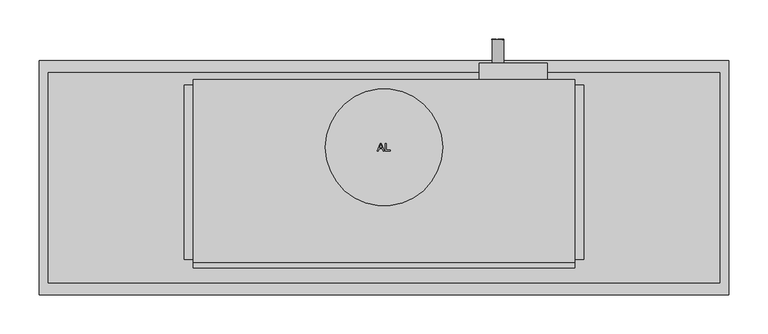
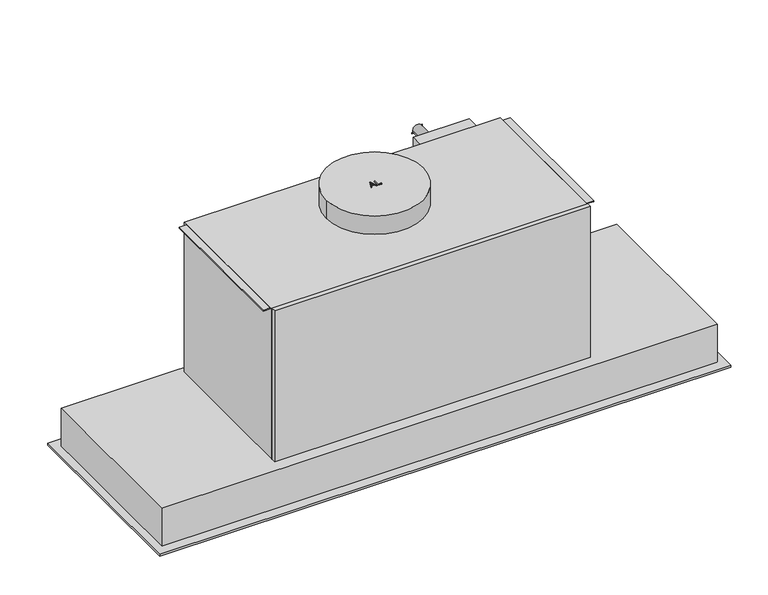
"""IFC4 building model written with IfcOpenShell, lengths in millimetres: proxy geometry, 10876810_USA_DA2698_EDST : 28269855_USA_10876810_DA2698_EDST."""

from ifc_helpers import new_model, si_unit, point, frame, frame_2d, origin, place, context, project, spatial, polyline, circle_curve, trimmed, segment, composite_curve, outline, extrude, faceted_brep, source, transform, mapped, element, save


def specialty_equipment_618ad6a4(model_context):
    return source(origin(), model_context, "Body", "SolidModel", [
        extrude(outline(polyline([(-244.5, -266.0), (-244.5, -259.0), (244.5, -259.0), (244.5, -266.0), (-244.5, -266.0)])), frame((0.0, 0.0, 62.0), z_axis=(0.0, 0.0, 1.0), x_axis=(1.0, 0.0, 0.0)), (0.0, 0.0, 1.0), 247.0),
        extrude(outline(polyline([(297.0487014, 146.1488124), (295.7933175, 146.1488124), (295.7933175, 152.1103397), (292.8179635, 152.1103397), (292.8179635, 146.4736401), (291.549202, 146.4736401), (291.549202, 152.1103397), (288.2562302, 152.1103397), (288.2562302, 146.0), (287.0008068, 146.0), (287.0008068, 153.3751415), (297.0487014, 153.3751415), (297.0487014, 146.1488124)])), frame((0.0, 27.0, 0.0), z_axis=(0.0, 1.0, 0.0), x_axis=(0.0, 0.0, 1.0)), (0.0, 0.0, 1.0), 1.0),
        extrude(outline(polyline([(287.0010623, 144.1174475), (297.0447152, 144.1174475), (297.0447152, 142.8578836), (288.2586555, 142.8578836), (288.2586555, 137.835249), (287.0010623, 137.835249), (287.0010623, 144.1174475)])), frame((0.0, 27.0, 0.0), z_axis=(0.0, 1.0, 0.0), x_axis=(0.0, 0.0, 1.0)), (0.0, 0.0, 1.0), 1.0),
        extrude(outline(composite_curve([segment(trimmed(circle_curve(frame_2d((292.0, 146.0)), 7.5), [point((292.0, 153.5))], [point((292.0, 138.5))], False, "CARTESIAN"), True, "CONTINUOUS"), segment(trimmed(circle_curve(frame_2d((292.0, 146.0)), 7.5), [point((292.0, 138.5))], [point((292.0, 153.5))], False, "CARTESIAN"), True, "CONTINUOUS")], self_intersect=False)), frame((0.0, -3.0, 0.0), z_axis=(0.0, 1.0, 0.0), x_axis=(0.0, 0.0, 1.0)), (0.0, 0.0, 1.0), 30.0),
        extrude(outline(polyline([(-4.5437921, -105.9495981), (-3.4668148, -105.9495981), (0.5440871, -115.9953171), (-0.7800582, -115.9953171), (-1.9426964, -112.8611222), (-6.0755488, -112.8611222), (-7.2182499, -116.0006677), (-8.5685918, -116.0006677), (-4.5437921, -105.9495981)]), holes=[polyline([(-5.5965599, -111.5853483), (-2.3854954, -111.5853483), (-4.0062819, -107.2160952), (-5.5965599, -111.5853483)])]), frame((0.0, 0.0, 337.0), z_axis=(0.0, 0.0, 1.0), x_axis=(1.0, 0.0, 0.0)), (0.0, 0.0, 1.0), 1.0),
        extrude(outline(polyline([(1.8800307, -115.9978853), (1.8800307, -105.9363264), (3.1662053, -105.9363264), (3.1662053, -114.743845), (8.1662053, -114.743845), (8.1662053, -115.9978853), (1.8800307, -115.9978853)])), frame((0.0, 0.0, 337.0), z_axis=(0.0, 0.0, 1.0), x_axis=(1.0, 0.0, 0.0)), (0.0, 0.0, 1.0), 1.0),
        extrude(outline(composite_curve([segment(trimmed(circle_curve(frame_2d((0.0, -111.0)), 75.0), [point((75.0, -111.0))], [point((-75.0, -111.0))], False, "CARTESIAN"), True, "CONTINUOUS"), segment(trimmed(circle_curve(frame_2d((0.0, -111.0)), 75.0), [point((-75.0, -111.0))], [point((75.0, -111.0))], False, "CARTESIAN"), True, "CONTINUOUS")], self_intersect=False)), frame((0.0, 0.0, 307.0), z_axis=(0.0, 0.0, 1.0), x_axis=(1.0, 0.0, 0.0)), (0.0, 0.0, 1.0), 30.0),
        extrude(outline(polyline([(244.5, -24.0), (244.5, -259.0), (-244.5, -259.0), (-244.5, -24.0), (244.5, -24.0)])), frame((0.0, 0.0, 62.0), z_axis=(0.0, 0.0, 1.0), x_axis=(1.0, 0.0, 0.0)), (0.0, 0.0, 1.0), 245.0),
        extrude(outline(polyline([(324.5, -50.5), (324.5, -249.5), (-324.5, -249.5), (-324.5, -50.5), (324.5, -50.5)])), frame((0.0, 0.0, -3.0), z_axis=(0.0, 0.0, 1.0), x_axis=(1.0, 0.0, 0.0)), (0.0, 0.0, 1.0), 15.0),
        extrude(outline(polyline([(305.0, 122.0), (279.0, 122.0), (279.0, 155.0), (268.0, 155.0), (268.0, 209.0), (305.0, 209.0), (305.0, 122.0)])), frame((0.0, -24.0, 0.0), z_axis=(0.0, 1.0, 0.0), x_axis=(0.0, 0.0, 1.0)), (0.0, 0.0, 1.0), 21.0),
        extrude(outline(polyline([(442.0, 0.0), (442.0, -300.0), (-442.0, -300.0), (-442.0, 0.0), (442.0, 0.0)]), holes=[polyline([(340.0, -35.0), (-340.0, -35.0), (-340.0, -265.0), (340.0, -265.0), (340.0, -35.0)]), composite_curve([segment(trimmed(circle_curve(frame_2d((-399.5, -235.0)), 29.0), [point((-370.5, -235.0))], [point((-428.5, -235.0))], True, "CARTESIAN"), True, "CONTINUOUS"), segment(trimmed(circle_curve(frame_2d((-399.5, -235.0)), 29.0), [point((-428.5, -235.0))], [point((-370.5, -235.0))], True, "CARTESIAN"), True, "CONTINUOUS")], self_intersect=False), composite_curve([segment(trimmed(circle_curve(frame_2d((399.5, -235.0)), 29.0), [point((428.5, -235.0))], [point((370.5, -235.0))], True, "CARTESIAN"), True, "CONTINUOUS"), segment(trimmed(circle_curve(frame_2d((399.5, -235.0)), 29.0), [point((370.5, -235.0))], [point((428.5, -235.0))], True, "CARTESIAN"), True, "CONTINUOUS")], self_intersect=False), composite_curve([segment(trimmed(circle_curve(frame_2d((399.5, -55.0)), 28.5), [point((428.0, -55.0))], [point((371.0, -55.0))], True, "CARTESIAN"), True, "CONTINUOUS"), segment(trimmed(circle_curve(frame_2d((399.5, -55.0)), 28.5), [point((371.0, -55.0))], [point((428.0, -55.0))], True, "CARTESIAN"), True, "CONTINUOUS")], self_intersect=False), composite_curve([segment(trimmed(circle_curve(frame_2d((-399.5, -55.0)), 28.5), [point((-371.0, -55.0))], [point((-428.0, -55.0))], True, "CARTESIAN"), True, "CONTINUOUS"), segment(trimmed(circle_curve(frame_2d((-399.5, -55.0)), 28.5), [point((-428.0, -55.0))], [point((-371.0, -55.0))], True, "CARTESIAN"), True, "CONTINUOUS")], self_intersect=False)]), frame((0.0, 0.0, -3.0), z_axis=(0.0, 0.0, 1.0), x_axis=(1.0, 0.0, 0.0)), (0.0, 0.0, 1.0), 3.0),
        faceted_brep([(430.0, -15.0, 62.0), (-430.0, -15.0, 62.0), (-430.0, -285.0, 62.0), (430.0, -285.0, 62.0), (430.0, -15.0, 0.0), (430.0, -285.0, 0.0), (-430.0, -285.0, 0.0), (-430.0, -15.0, 0.0), (340.0, -35.0, 0.0), (-340.0, -35.0, 0.0), (-340.0, -265.0, 0.0), (340.0, -265.0, 0.0), (340.0, -35.0, 43.0), (340.0, -265.0, 43.0), (-340.0, -265.0, 43.0), (-340.0, -35.0, 43.0)], [[[0, 1, 2, 3]], [[4, 5, 6, 7], [8, 9, 10, 11]], [[1, 0, 4, 7]], [[2, 1, 7, 6]], [[3, 2, 6, 5]], [[0, 3, 5, 4]], [[12, 13, 14, 15]], [[12, 15, 9, 8]], [[15, 14, 10, 9]], [[14, 13, 11, 10]], [[13, 12, 8, 11]]]),
        extrude(outline(polyline([(244.5, -255.0), (244.5, -31.0), (256.0, -31.0), (256.0, -255.0), (244.5, -255.0)])), frame((0.0, 0.0, 306.0), z_axis=(0.0, 0.0, 1.0), x_axis=(1.0, 0.0, 0.0)), (0.0, 0.0, 1.0), 1.0),
        extrude(outline(polyline([(-244.5, -255.0), (-256.0, -255.0), (-256.0, -31.0), (-244.5, -31.0), (-244.5, -255.0)])), frame((0.0, 0.0, 306.0), z_axis=(0.0, 0.0, 1.0), x_axis=(1.0, 0.0, 0.0)), (0.0, 0.0, 1.0), 1.0),
        extrude(outline(polyline([(365.0, -71.0), (365.0, -96.5), (357.0, -96.5), (357.0, -71.0), (365.0, -71.0)])), frame((0.0, 0.0, -5.0), z_axis=(0.0, 0.0, 1.0), x_axis=(1.0, 0.0, 0.0)), (0.0, 0.0, 1.0), 2.0),
        extrude(outline(polyline([(357.0, -201.5), (365.0, -201.5), (365.0, -227.0), (357.0, -227.0), (357.0, -201.5)])), frame((0.0, 0.0, -5.0), z_axis=(0.0, 0.0, 1.0), x_axis=(1.0, 0.0, 0.0)), (0.0, 0.0, 1.0), 2.0),
        extrude(outline(polyline([(365.0, -97.0), (365.0, -122.5), (357.0, -122.5), (357.0, -97.0), (365.0, -97.0)])), frame((0.0, 0.0, -5.0), z_axis=(0.0, 0.0, 1.0), x_axis=(1.0, 0.0, 0.0)), (0.0, 0.0, 1.0), 2.0),
        extrude(outline(polyline([(357.0, -201.0), (357.0, -175.5), (365.0, -175.5), (365.0, -201.0), (357.0, -201.0)])), frame((0.0, 0.0, -5.0), z_axis=(0.0, 0.0, 1.0), x_axis=(1.0, 0.0, 0.0)), (0.0, 0.0, 1.0), 2.0),
        extrude(outline(polyline([(357.0, -175.0), (357.0, -123.0), (365.0, -123.0), (365.0, -175.0), (357.0, -175.0)])), frame((0.0, 0.0, -5.0), z_axis=(0.0, 0.0, 1.0), x_axis=(1.0, 0.0, 0.0)), (0.0, 0.0, 1.0), 2.0),
        extrude(outline(polyline([(331.0, -44.0), (331.0, -256.0), (16.5, -256.0), (16.5, -44.0), (331.0, -44.0)])), frame((0.0, 0.0, 36.0), z_axis=(0.0, 0.0, 1.0), x_axis=(1.0, 0.0, 0.0)), (0.0, 0.0, 1.0), 6.0),
        extrude(outline(polyline([(-16.5, -44.0), (-16.5, -256.0), (-331.0, -256.0), (-331.0, -44.0), (-16.5, -44.0)])), frame((0.0, 0.0, 36.0), z_axis=(0.0, 0.0, 1.0), x_axis=(1.0, 0.0, 0.0)), (0.0, 0.0, 1.0), 6.0),
        extrude(outline(polyline([(340.0, -35.0), (340.0, -265.0), (7.5, -265.0), (7.5, -35.0), (340.0, -35.0)]), holes=[polyline([(331.0, -44.0), (16.5, -44.0), (16.5, -256.0), (331.0, -256.0), (331.0, -44.0)])]), frame((0.0, 0.0, 35.0), z_axis=(0.0, 0.0, 1.0), x_axis=(1.0, 0.0, 0.0)), (0.0, 0.0, 1.0), 8.0),
        extrude(outline(polyline([(-7.5, -35.0), (-7.5, -265.0), (-340.0, -265.0), (-340.0, -35.0), (-7.5, -35.0)]), holes=[polyline([(-16.5, -44.0), (-331.0, -44.0), (-331.0, -256.0), (-16.5, -256.0), (-16.5, -44.0)])]), frame((0.0, 0.0, 35.0), z_axis=(0.0, 0.0, 1.0), x_axis=(1.0, 0.0, 0.0)), (0.0, 0.0, 1.0), 8.0),
        extrude(outline(composite_curve([segment(trimmed(circle_curve(frame_2d((-399.5, -235.0)), 27.5), [point((-372.0, -235.0))], [point((-427.0, -235.0))], False, "CARTESIAN"), True, "CONTINUOUS"), segment(trimmed(circle_curve(frame_2d((-399.5, -235.0)), 27.5), [point((-427.0, -235.0))], [point((-372.0, -235.0))], False, "CARTESIAN"), True, "CONTINUOUS")], self_intersect=False)), frame((0.0, 0.0, -3.0), z_axis=(0.0, 0.0, 1.0), x_axis=(1.0, 0.0, 0.0)), (0.0, 0.0, 1.0), 2.0),
        extrude(outline(composite_curve([segment(trimmed(circle_curve(frame_2d((399.5, -235.0)), 27.5), [point((427.0, -235.0))], [point((372.0, -235.0))], False, "CARTESIAN"), True, "CONTINUOUS"), segment(trimmed(circle_curve(frame_2d((399.5, -235.0)), 27.5), [point((372.0, -235.0))], [point((427.0, -235.0))], False, "CARTESIAN"), True, "CONTINUOUS")], self_intersect=False)), frame((0.0, 0.0, -3.0), z_axis=(0.0, 0.0, 1.0), x_axis=(1.0, 0.0, 0.0)), (0.0, 0.0, 1.0), 2.0),
        extrude(outline(composite_curve([segment(trimmed(circle_curve(frame_2d((-399.5, -235.0)), 27.5), [point((-372.0, -235.0))], [point((-427.0, -235.0))], False, "CARTESIAN"), True, "CONTINUOUS"), segment(trimmed(circle_curve(frame_2d((-399.5, -235.0)), 27.5), [point((-427.0, -235.0))], [point((-372.0, -235.0))], False, "CARTESIAN"), True, "CONTINUOUS")], self_intersect=False)), frame((0.0, 0.0, -1.0), z_axis=(0.0, 0.0, 1.0), x_axis=(1.0, 0.0, 0.0)), (0.0, 0.0, 1.0), 1.0),
        extrude(outline(composite_curve([segment(trimmed(circle_curve(frame_2d((399.5, -235.0)), 27.5), [point((427.0, -235.0))], [point((372.0, -235.0))], False, "CARTESIAN"), True, "CONTINUOUS"), segment(trimmed(circle_curve(frame_2d((399.5, -235.0)), 27.5), [point((372.0, -235.0))], [point((427.0, -235.0))], False, "CARTESIAN"), True, "CONTINUOUS")], self_intersect=False)), frame((0.0, 0.0, -1.0), z_axis=(0.0, 0.0, 1.0), x_axis=(1.0, 0.0, 0.0)), (0.0, 0.0, 1.0), 1.0),
        extrude(outline(composite_curve([segment(trimmed(circle_curve(frame_2d((-399.5, -235.0)), 28.5), [point((-371.0, -235.0))], [point((-428.0, -235.0))], False, "CARTESIAN"), True, "CONTINUOUS"), segment(trimmed(circle_curve(frame_2d((-399.5, -235.0)), 28.5), [point((-428.0, -235.0))], [point((-371.0, -235.0))], False, "CARTESIAN"), True, "CONTINUOUS")], self_intersect=False), holes=[composite_curve([segment(trimmed(circle_curve(frame_2d((-399.5, -235.0)), 27.5), [point((-372.0, -235.0))], [point((-427.0, -235.0))], True, "CARTESIAN"), True, "CONTINUOUS"), segment(trimmed(circle_curve(frame_2d((-399.5, -235.0)), 27.5), [point((-427.0, -235.0))], [point((-372.0, -235.0))], True, "CARTESIAN"), True, "CONTINUOUS")], self_intersect=False)]), frame((0.0, 0.0, -3.0), z_axis=(0.0, 0.0, 1.0), x_axis=(1.0, 0.0, 0.0)), (0.0, 0.0, 1.0), 3.0),
        extrude(outline(composite_curve([segment(trimmed(circle_curve(frame_2d((399.5, -235.0)), 28.5), [point((428.0, -235.0))], [point((371.0, -235.0))], False, "CARTESIAN"), True, "CONTINUOUS"), segment(trimmed(circle_curve(frame_2d((399.5, -235.0)), 28.5), [point((371.0, -235.0))], [point((428.0, -235.0))], False, "CARTESIAN"), True, "CONTINUOUS")], self_intersect=False), holes=[composite_curve([segment(trimmed(circle_curve(frame_2d((399.5, -235.0)), 27.5), [point((427.0, -235.0))], [point((372.0, -235.0))], True, "CARTESIAN"), True, "CONTINUOUS"), segment(trimmed(circle_curve(frame_2d((399.5, -235.0)), 27.5), [point((372.0, -235.0))], [point((427.0, -235.0))], True, "CARTESIAN"), True, "CONTINUOUS")], self_intersect=False)]), frame((0.0, 0.0, -3.0), z_axis=(0.0, 0.0, 1.0), x_axis=(1.0, 0.0, 0.0)), (0.0, 0.0, 1.0), 3.0),
        extrude(outline(composite_curve([segment(trimmed(circle_curve(frame_2d((-399.5, -55.0)), 27.5), [point((-372.0, -55.0))], [point((-427.0, -55.0))], False, "CARTESIAN"), True, "CONTINUOUS"), segment(trimmed(circle_curve(frame_2d((-399.5, -55.0)), 27.5), [point((-427.0, -55.0))], [point((-372.0, -55.0))], False, "CARTESIAN"), True, "CONTINUOUS")], self_intersect=False)), frame((0.0, 0.0, -1.0), z_axis=(0.0, 0.0, 1.0), x_axis=(1.0, 0.0, 0.0)), (0.0, 0.0, 1.0), 1.0),
        extrude(outline(composite_curve([segment(trimmed(circle_curve(frame_2d((399.5, -55.0)), 27.5), [point((427.0, -55.0))], [point((372.0, -55.0))], False, "CARTESIAN"), True, "CONTINUOUS"), segment(trimmed(circle_curve(frame_2d((399.5, -55.0)), 27.5), [point((372.0, -55.0))], [point((427.0, -55.0))], False, "CARTESIAN"), True, "CONTINUOUS")], self_intersect=False)), frame((0.0, 0.0, -1.0), z_axis=(0.0, 0.0, 1.0), x_axis=(1.0, 0.0, 0.0)), (0.0, 0.0, 1.0), 1.0),
        extrude(outline(composite_curve([segment(trimmed(circle_curve(frame_2d((-399.5, -55.0)), 27.5), [point((-372.0, -55.0))], [point((-427.0, -55.0))], False, "CARTESIAN"), True, "CONTINUOUS"), segment(trimmed(circle_curve(frame_2d((-399.5, -55.0)), 27.5), [point((-427.0, -55.0))], [point((-372.0, -55.0))], False, "CARTESIAN"), True, "CONTINUOUS")], self_intersect=False)), frame((0.0, 0.0, -3.0), z_axis=(0.0, 0.0, 1.0), x_axis=(1.0, 0.0, 0.0)), (0.0, 0.0, 1.0), 2.0),
        extrude(outline(composite_curve([segment(trimmed(circle_curve(frame_2d((399.5, -55.0)), 27.5), [point((427.0, -55.0))], [point((372.0, -55.0))], False, "CARTESIAN"), True, "CONTINUOUS"), segment(trimmed(circle_curve(frame_2d((399.5, -55.0)), 27.5), [point((372.0, -55.0))], [point((427.0, -55.0))], False, "CARTESIAN"), True, "CONTINUOUS")], self_intersect=False)), frame((0.0, 0.0, -3.0), z_axis=(0.0, 0.0, 1.0), x_axis=(1.0, 0.0, 0.0)), (0.0, 0.0, 1.0), 2.0),
        extrude(outline(composite_curve([segment(trimmed(circle_curve(frame_2d((-399.5, -55.0)), 28.5), [point((-371.0, -55.0))], [point((-428.0, -55.0))], False, "CARTESIAN"), True, "CONTINUOUS"), segment(trimmed(circle_curve(frame_2d((-399.5, -55.0)), 28.5), [point((-428.0, -55.0))], [point((-371.0, -55.0))], False, "CARTESIAN"), True, "CONTINUOUS")], self_intersect=False), holes=[composite_curve([segment(trimmed(circle_curve(frame_2d((-399.5, -55.0)), 27.5), [point((-372.0, -55.0))], [point((-427.0, -55.0))], True, "CARTESIAN"), True, "CONTINUOUS"), segment(trimmed(circle_curve(frame_2d((-399.5, -55.0)), 27.5), [point((-427.0, -55.0))], [point((-372.0, -55.0))], True, "CARTESIAN"), True, "CONTINUOUS")], self_intersect=False)]), frame((0.0, 0.0, -3.0), z_axis=(0.0, 0.0, 1.0), x_axis=(1.0, 0.0, 0.0)), (0.0, 0.0, 1.0), 3.0),
        extrude(outline(composite_curve([segment(trimmed(circle_curve(frame_2d((399.5, -55.0)), 28.5), [point((428.0, -55.0))], [point((371.0, -55.0))], False, "CARTESIAN"), True, "CONTINUOUS"), segment(trimmed(circle_curve(frame_2d((399.5, -55.0)), 28.5), [point((371.0, -55.0))], [point((428.0, -55.0))], False, "CARTESIAN"), True, "CONTINUOUS")], self_intersect=False), holes=[composite_curve([segment(trimmed(circle_curve(frame_2d((399.5, -55.0)), 27.5), [point((427.0, -55.0))], [point((372.0, -55.0))], True, "CARTESIAN"), True, "CONTINUOUS"), segment(trimmed(circle_curve(frame_2d((399.5, -55.0)), 27.5), [point((372.0, -55.0))], [point((427.0, -55.0))], True, "CARTESIAN"), True, "CONTINUOUS")], self_intersect=False)]), frame((0.0, 0.0, -3.0), z_axis=(0.0, 0.0, 1.0), x_axis=(1.0, 0.0, 0.0)), (0.0, 0.0, 1.0), 3.0),
    ])


if __name__ == "__main__":
    model = new_model("IFC4")
    model_context = context("Model", 3, world=origin())
    ifc_project = project(units=[si_unit("LENGTHUNIT", "METRE", prefix="MILLI")], contexts=[model_context])
    site = spatial("IfcSite", under=ifc_project)
    building = spatial("IfcBuilding", under=site)
    placement = place(None, origin())
    specialty_equipment_shape = specialty_equipment_618ad6a4(model_context)
    element("IfcBuildingElementProxy", 1, Name="10876810_USA_DA2698_EDST : 28269855_USA_10876810_DA2698_EDST", ObjectType="10876810_USA_DA2698_EDST : 28269855_USA_10876810_DA2698_EDST", at=placement, inside=building, context=model_context, shape_type="MappedRepresentation", body=[
        mapped(specialty_equipment_shape, transform((0.0, 0.0, 0.0), x_axis=(1.0, 0.0, 0.0), y_axis=(0.0, 1.0, 0.0), z_axis=(0.0, 0.0, 1.0))),
    ])
    save(model, "model.ifc")
